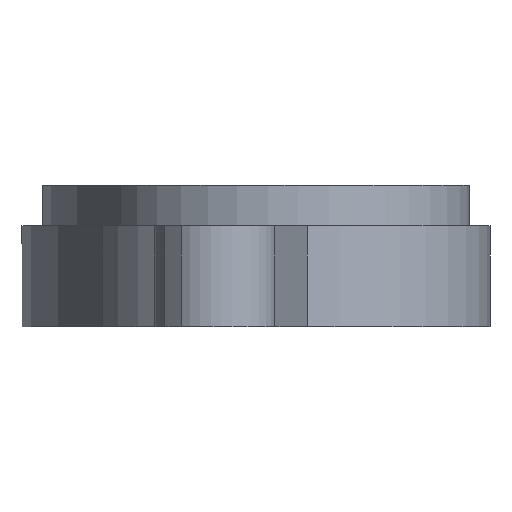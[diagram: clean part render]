
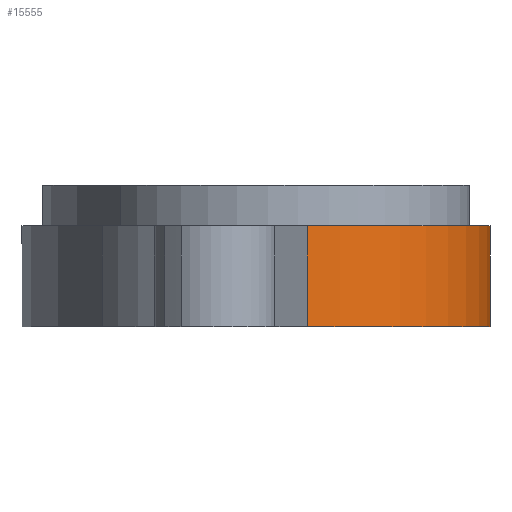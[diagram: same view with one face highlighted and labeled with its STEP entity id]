
A CAD part, front view. The second image highlights one B-rep face of the part: STEP entity #15555.
In plain terms, the highlighted cylindrical face has radius 10.2 mm (diameter 20.4 mm), a partial arc.
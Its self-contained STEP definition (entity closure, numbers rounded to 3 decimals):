
#1839=FACE_OUTER_BOUND('',#2735,.T.);
#2735=EDGE_LOOP('',(#10830,#10831,#10832,#10833));
#3713=LINE('',#19602,#5214);
#3725=LINE('',#19641,#5226);
#5214=VECTOR('',#17066,10.);
#5226=VECTOR('',#17112,10.);
#6719=CIRCLE('',#16479,10.2);
#6730=CIRCLE('',#16504,10.2);
#6760=VERTEX_POINT('',#19548);
#6775=VERTEX_POINT('',#19577);
#6782=VERTEX_POINT('',#19599);
#6792=VERTEX_POINT('',#19640);
#8373=EDGE_CURVE('',#6775,#6760,#6719,.T.);
#8385=EDGE_CURVE('',#6782,#6760,#3713,.T.);
#8404=EDGE_CURVE('',#6775,#6792,#3725,.T.);
#8405=EDGE_CURVE('',#6782,#6792,#6730,.T.);
#10830=ORIENTED_EDGE('',*,*,#8385,.T.);
#10831=ORIENTED_EDGE('',*,*,#8373,.F.);
#10832=ORIENTED_EDGE('',*,*,#8404,.T.);
#10833=ORIENTED_EDGE('',*,*,#8405,.F.);
#15523=CYLINDRICAL_SURFACE('',#16503,10.2);
#15555=ADVANCED_FACE('',(#1839),#15523,.T.);
#16479=AXIS2_PLACEMENT_3D('',#19579,#17042,#17043);
#16503=AXIS2_PLACEMENT_3D('',#19639,#17110,#17111);
#16504=AXIS2_PLACEMENT_3D('',#19642,#17113,#17114);
#17042=DIRECTION('center_axis',(0.,0.,-1.));
#17043=DIRECTION('ref_axis',(1.,0.,0.));
#17066=DIRECTION('',(0.,0.,-1.));
#17110=DIRECTION('center_axis',(0.,0.,1.));
#17111=DIRECTION('ref_axis',(1.,0.,0.));
#17112=DIRECTION('',(0.,0.,1.));
#17113=DIRECTION('center_axis',(0.,0.,1.));
#17114=DIRECTION('ref_axis',(1.,0.,0.));
#19548=CARTESIAN_POINT('',(2.554,-21.636,46.9));
#19577=CARTESIAN_POINT('',(11.614,-11.5,46.9));
#19579=CARTESIAN_POINT('Origin',(1.414,-11.5,46.9));
#19599=CARTESIAN_POINT('',(2.554,-21.636,51.9));
#19602=CARTESIAN_POINT('',(2.554,-21.636,49.9));
#19639=CARTESIAN_POINT('Origin',(1.414,-11.5,49.9));
#19640=CARTESIAN_POINT('',(11.614,-11.5,51.9));
#19641=CARTESIAN_POINT('',(11.614,-11.5,49.9));
#19642=CARTESIAN_POINT('Origin',(1.414,-11.5,51.9));
